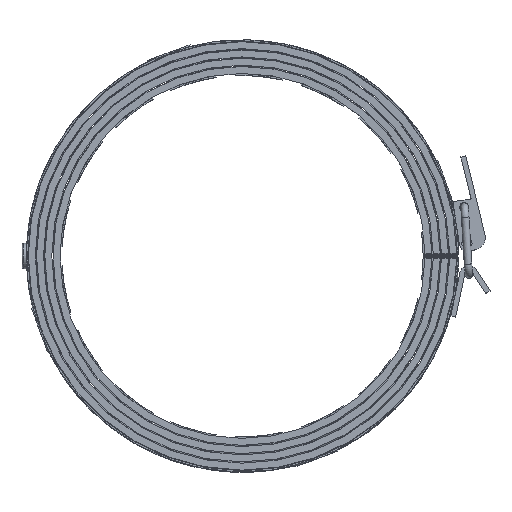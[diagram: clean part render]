
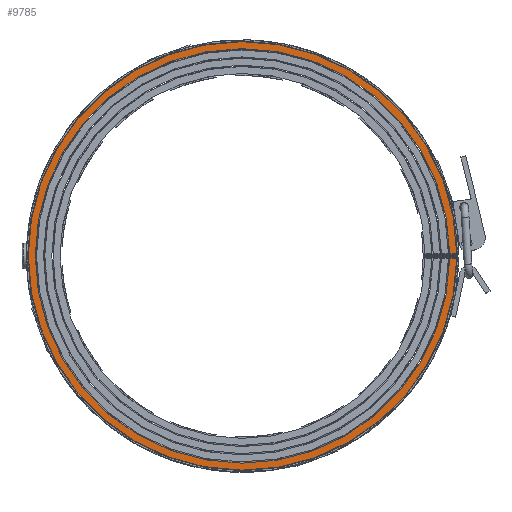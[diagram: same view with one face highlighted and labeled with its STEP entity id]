
A CAD part, top view. The second image highlights one B-rep face of the part: STEP entity #9785.
In plain terms, the highlighted planar face has unit normal (0, 0, 1).
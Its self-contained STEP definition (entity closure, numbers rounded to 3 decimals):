
#175=PLANE('',#10561);
#752=LINE('',#15578,#1567);
#760=LINE('',#15594,#1575);
#1567=VECTOR('',#12471,2.75);
#1575=VECTOR('',#12489,2.75);
#2467=FACE_OUTER_BOUND('',#2997,.T.);
#2997=EDGE_LOOP('',(#7327,#7328,#7329,#7330));
#3462=CIRCLE('',#10424,81.5);
#3575=CIRCLE('',#10562,84.25);
#4223=VERTEX_POINT('',#15308);
#4224=VERTEX_POINT('',#15310);
#4314=VERTEX_POINT('',#15576);
#4317=VERTEX_POINT('',#15592);
#5256=EDGE_CURVE('',#4224,#4223,#3462,.T.);
#5412=EDGE_CURVE('',#4314,#4223,#752,.T.);
#5420=EDGE_CURVE('',#4317,#4314,#3575,.T.);
#5421=EDGE_CURVE('',#4224,#4317,#760,.T.);
#7327=ORIENTED_EDGE('',*,*,#5256,.T.);
#7328=ORIENTED_EDGE('',*,*,#5412,.F.);
#7329=ORIENTED_EDGE('',*,*,#5420,.F.);
#7330=ORIENTED_EDGE('',*,*,#5421,.F.);
#9785=ADVANCED_FACE('',(#2467),#175,.T.);
#10424=AXIS2_PLACEMENT_3D('',#15311,#12160,#12161);
#10561=AXIS2_PLACEMENT_3D('',#15591,#12485,#12486);
#10562=AXIS2_PLACEMENT_3D('',#15593,#12487,#12488);
#12160=DIRECTION('center_axis',(0.,0.,
-1.));
#12161=DIRECTION('ref_axis',(1.,0.012,0.));
#12471=DIRECTION('',(-1.,0.,0.));
#12485=DIRECTION('center_axis',(0.,0.,
1.));
#12486=DIRECTION('ref_axis',(1.,0.,0.));
#12487=DIRECTION('center_axis',(0.,0.,-1.));
#12488=DIRECTION('ref_axis',(1.,0.012,0.));
#12489=DIRECTION('',(1.,0.,0.));
#15308=CARTESIAN_POINT('',(81.494,1.,35.));
#15310=CARTESIAN_POINT('',(81.494,-1.,35.));
#15311=CARTESIAN_POINT('Origin',(0.,0.,
35.));
#15576=CARTESIAN_POINT('',(84.244,1.,35.));
#15578=CARTESIAN_POINT('',(71.743,1.,35.));
#15591=CARTESIAN_POINT('Origin',(8.632,0.,
35.));
#15592=CARTESIAN_POINT('',(84.244,-1.,35.));
#15593=CARTESIAN_POINT('Origin',(0.,0.,35.));
#15594=CARTESIAN_POINT('',(84.244,-1.,35.));
